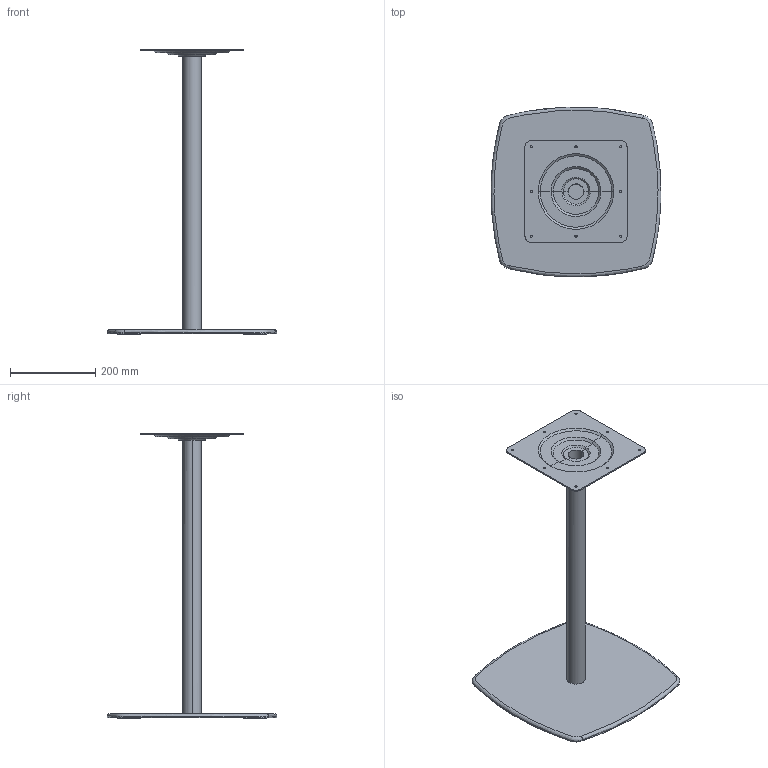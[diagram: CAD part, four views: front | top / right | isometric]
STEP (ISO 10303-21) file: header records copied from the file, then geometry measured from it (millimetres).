
FILE_DESCRIPTION(/* description */ (''),/* implementation_level */ '2;1');
FILE_NAME(/* name */ 'kinoshita_abord_tl006-1',/* time_stamp */ '2024-10-01T15:16:42+09:00',/* author */ (''),/* organization */ (''),/* preprocessor_version */ 'ST-DEVELOPER v16.5',/* originating_system */ '',/* authorisation */ '');
FILE_SCHEMA (('AUTOMOTIVE_DESIGN'));
Length unit declared in the file: millimetre
Products named in the file (1): Document
Bounding box: 399.89 x 399.54 x 670 mm (x, y, z)
Volume: 1820490.7 mm3; surface area: 581588.7 mm2
Topology: 1 solids, 1 shells, 81 faces, 190 edges, 118 vertices
Faces by surface type: bspline 52, plane 29
Entity records: 2664 total; most frequent: CARTESIAN_POINT 1539, ORIENTED_EDGE 380, EDGE_CURVE 190, VERTEX_POINT 118, EDGE_LOOP 104, ADVANCED_FACE 81, FACE_OUTER_BOUND 81, B_SPLINE_CURVE_WITH_KNOTS 36
